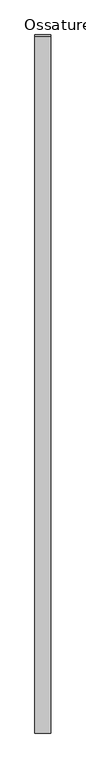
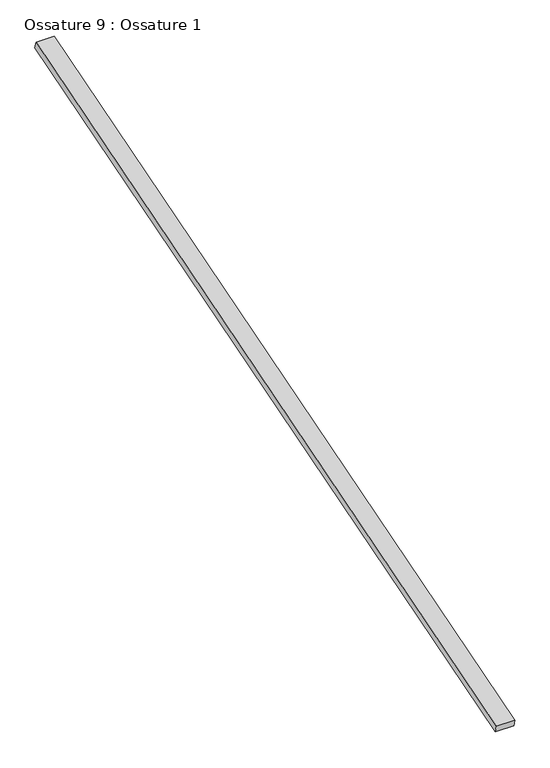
"""IFC4 building model written with IfcOpenShell, lengths in millimetres: beam geometry, Ossature 9 : Ossature 1."""

from ifc_helpers import new_model, si_unit, frame, origin, place, context, project, spatial, polyline, outline, extrude, source, transform, mapped, element, save


def ossature_9_ossature_1_2b6ccbf5(model_context):
    return source(origin(), model_context, "Body", "SweptSolid", [
        extrude(outline(polyline([(0.0, 0.0), (0.0, -4543.0299679), (-100.0, -4543.0299679), (-100.0, 0.0), (0.0, 0.0)])), frame((2455.8466393, -833.3913565, 8153.6336115), z_axis=(0.0, -0.28734788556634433, 0.9578262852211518), x_axis=(-1.0, 0.0, 0.0)), (0.0, 0.0, 1.0), 40.0),
    ])


if __name__ == "__main__":
    model = new_model("IFC4")
    model_context = context("Model", 3, world=origin())
    ifc_project = project(units=[si_unit("LENGTHUNIT", "METRE", prefix="MILLI")], contexts=[model_context])
    site = spatial("IfcSite", under=ifc_project)
    building = spatial("IfcBuilding", under=site)
    placement = place(None, origin())
    ossature_9_ossature_1_shape = ossature_9_ossature_1_2b6ccbf5(model_context)
    element("IfcBeam", 1, ObjectType="Ossature 9 : Ossature 1", at=placement, inside=building, context=model_context, shape_type="MappedRepresentation", body=[
        mapped(ossature_9_ossature_1_shape, transform((0.0, 0.0, 0.0), x_axis=(1.0, 0.0, 0.0), y_axis=(0.0, 1.0, 0.0), z_axis=(0.0, 0.0, 1.0))),
    ])
    save(model, "model.ifc")
